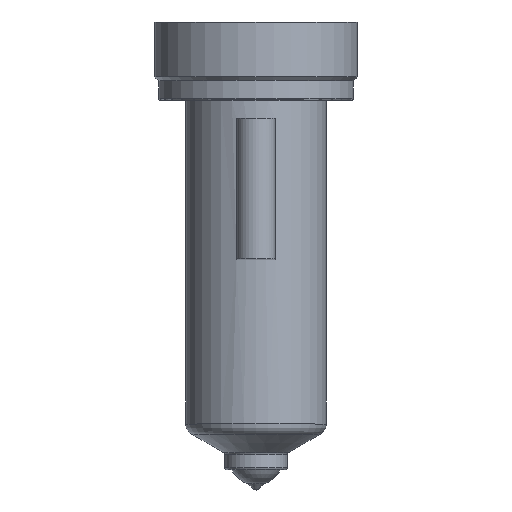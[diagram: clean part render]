
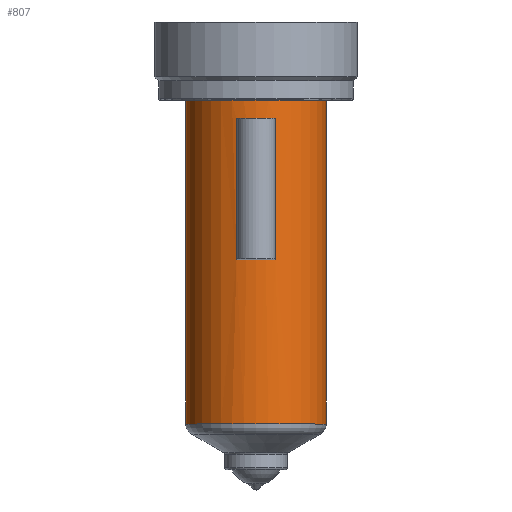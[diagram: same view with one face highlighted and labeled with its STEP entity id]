
A CAD part, top view. The second image highlights one B-rep face of the part: STEP entity #807.
In plain terms, the highlighted cylindrical face has radius 9 mm (diameter 18 mm), a partial arc.
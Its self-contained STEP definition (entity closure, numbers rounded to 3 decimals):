
#193=DIRECTION('',(0.,-1.,0.));
#194=VECTOR('',#193,41.544);
#195=CARTESIAN_POINT('',(9.,0.,0.));
#196=LINE('',#195,#194);
#197=CARTESIAN_POINT('',(0.,-41.544,0.));
#198=DIRECTION('',(0.,1.,0.));
#199=DIRECTION('',(-1.,0.,0.));
#200=AXIS2_PLACEMENT_3D('',#197,#198,#199);
#202=DIRECTION('',(0.,1.,0.));
#203=VECTOR('',#202,41.544);
#204=CARTESIAN_POINT('',(-9.,-41.544,0.));
#205=LINE('',#204,#203);
#206=CARTESIAN_POINT('',(0.,0.,0.));
#207=DIRECTION('',(0.,1.,0.));
#208=DIRECTION('',(-1.,0.,0.));
#209=AXIS2_PLACEMENT_3D('',#206,#207,#208);
#211=DIRECTION('',(0.,-1.,0.));
#212=VECTOR('',#211,18.);
#213=CARTESIAN_POINT('',(-2.5,-2.5,8.646));
#214=LINE('',#213,#212);
#215=DIRECTION('',(0.,1.,0.));
#216=VECTOR('',#215,18.);
#217=CARTESIAN_POINT('',(2.5,-20.5,8.646));
#218=LINE('',#217,#216);
#385=CARTESIAN_POINT('',(0.,-2.5,0.));
#386=DIRECTION('',(0.,-1.,0.));
#387=DIRECTION('',(0.278,0.,0.961));
#388=AXIS2_PLACEMENT_3D('',#385,#386,#387);
#403=CARTESIAN_POINT('',(0.,-20.5,0.));
#404=DIRECTION('',(0.,1.,0.));
#405=DIRECTION('',(-0.278,0.,0.961));
#406=AXIS2_PLACEMENT_3D('',#403,#404,#405);
#482=CARTESIAN_POINT('',(-9.,0.,0.));
#483=CARTESIAN_POINT('',(9.,0.,0.));
#484=VERTEX_POINT('',#482);
#485=VERTEX_POINT('',#483);
#494=CARTESIAN_POINT('',(-2.5,-2.5,8.646));
#495=VERTEX_POINT('',#494);
#496=CARTESIAN_POINT('',(2.5,-2.5,8.646));
#497=VERTEX_POINT('',#496);
#534=CARTESIAN_POINT('',(9.,-41.544,0.));
#535=VERTEX_POINT('',#534);
#544=CARTESIAN_POINT('',(-9.,-41.544,0.));
#545=VERTEX_POINT('',#544);
#566=CARTESIAN_POINT('',(-2.5,-20.5,8.646));
#567=CARTESIAN_POINT('',(2.5,-20.5,8.646));
#568=VERTEX_POINT('',#566);
#569=VERTEX_POINT('',#567);
#785=CARTESIAN_POINT('',(0.,11.15,0.));
#786=DIRECTION('',(0.,-1.,0.));
#787=DIRECTION('',(-1.,0.,0.));
#788=AXIS2_PLACEMENT_3D('',#785,#786,#787);
#789=CYLINDRICAL_SURFACE('',#788,9.);
#790=ORIENTED_EDGE('',*,*,#779,.T.);
#792=ORIENTED_EDGE('',*,*,#791,.F.);
#793=ORIENTED_EDGE('',*,*,#775,.T.);
#794=ORIENTED_EDGE('',*,*,#765,.T.);
#795=EDGE_LOOP('',(#790,#792,#793,#794));
#796=FACE_OUTER_BOUND('',#795,.F.);
#798=ORIENTED_EDGE('',*,*,#797,.T.);
#800=ORIENTED_EDGE('',*,*,#799,.T.);
#802=ORIENTED_EDGE('',*,*,#801,.T.);
#804=ORIENTED_EDGE('',*,*,#803,.T.);
#805=EDGE_LOOP('',(#798,#800,#802,#804));
#806=FACE_BOUND('',#805,.F.);
#807=ADVANCED_FACE('',(#796,#806),#789,.T.);
#201=CIRCLE('',#200,9.);
#210=CIRCLE('',#209,9.);
#389=CIRCLE('',#388,9.);
#407=CIRCLE('',#406,9.);
#765=EDGE_CURVE('',#484,#485,#210,.T.);
#775=EDGE_CURVE('',#545,#484,#205,.T.);
#779=EDGE_CURVE('',#485,#535,#196,.T.);
#791=EDGE_CURVE('',#545,#535,#201,.T.);
#797=EDGE_CURVE('',#495,#568,#214,.T.);
#799=EDGE_CURVE('',#568,#569,#407,.T.);
#801=EDGE_CURVE('',#569,#497,#218,.T.);
#803=EDGE_CURVE('',#497,#495,#389,.T.);
